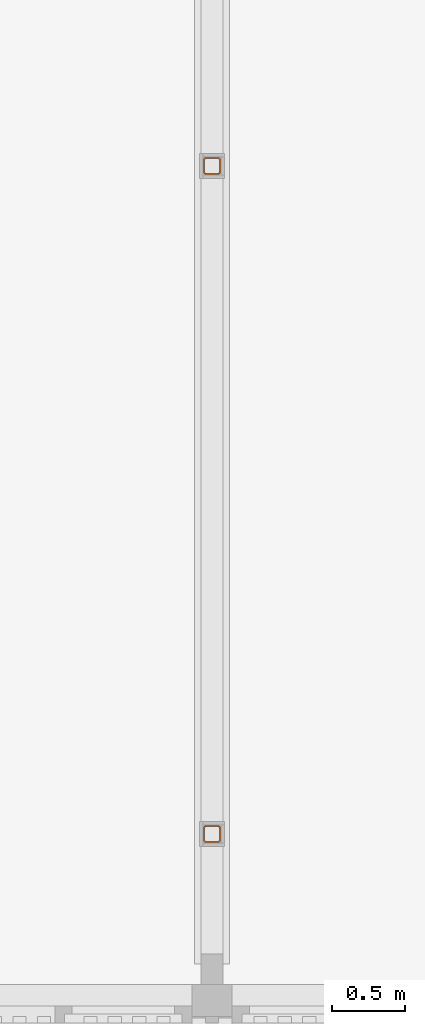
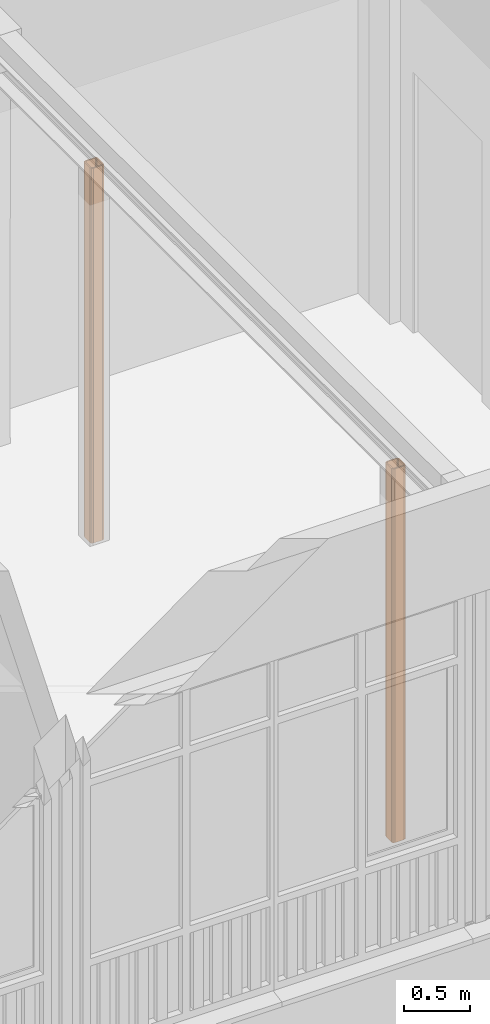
# One storey, part 121 of 135: 2 proxies.
"""IFC2X3 building model written with IfcOpenShell, lengths in millimetres."""

import ifcopenshell
import ifcopenshell.guid

model = None  # the IFC model being written
_history = None  # IfcOwnerHistory: only IFC2X3 demands one
_inside = {}  # id of a spatial element -> (the spatial element, [elements in it])
_under = {}  # id of a project, library or spatial element -> (it, [spatial elements below it])
_declared = {}  # id of a project -> (the project, [libraries it declares])
_typed = {}  # id of a type object -> (the type object, [elements of that type])
_made_of = {}  # id of a material, layer set ... -> (it, [elements and type objects made of it])


def new_model(schema):
    """Start an empty IFC model of exactly this schema.

    Asked for "IFC4X3", IfcOpenShell would pick the latest addendum, in which some entities
    have other attributes; the version numbers below select the first issue.
    IFC2X3 requires an IfcOwnerHistory on every rooted entity: one is made here for all.
    """
    global model, _history
    if schema == "IFC4X3":
        model = ifcopenshell.file(schema_version=(4, 3, 0, 0))
    else:
        model = ifcopenshell.file(schema=schema)
    _inside.clear()
    _under.clear()
    _declared.clear()
    _typed.clear()
    _made_of.clear()
    _history = None
    if model.schema == "IFC2X3":
        org = make("IfcOrganization", Name="unknown")
        user = make(
            "IfcPersonAndOrganization",
            ThePerson=make("IfcPerson", FamilyName="unknown"),
            TheOrganization=org,
        )
        app = make(
            "IfcApplication",
            ApplicationDeveloper=org,
            Version="unknown",
            ApplicationFullName="unknown",
            ApplicationIdentifier="unknown",
        )
        _history = make(
            "IfcOwnerHistory",
            OwningUser=user,
            OwningApplication=app,
            ChangeAction="ADDED",
            CreationDate=0,
        )
    return model


def make(cls, **values):
    """One entity of the class cls with the attributes given. An attribute that is None is left unset."""
    return model.create_entity(
        cls, **{name: value for name, value in values.items() if value is not None}
    )


def entity(cls, *values):
    """Any entity or typed value of the class cls, its attributes in the order of the schema. None: left unset."""
    e = model.create_entity(cls)
    for i, value in enumerate(values):
        if value is not None:
            e[i] = value
    return e


def rooted(cls, **values):
    """An entity with a GlobalId (a new one), such as an element, a storey or a relation."""
    return make(cls, GlobalId=ifcopenshell.guid.new(), OwnerHistory=_history, **values)


def si_unit(unit_type, name, prefix=None):
    """IfcSIUnit, for example si_unit("LENGTHUNIT", "METRE", prefix="MILLI")."""
    return make("IfcSIUnit", UnitType=unit_type, Prefix=prefix, Name=name)


def converted_unit(unit_type, name, factor, base, dimensions=None, offset=None):
    """IfcConversionBasedUnit, such as the inch: factor (a typed value) times the base unit."""
    return make(
        "IfcConversionBasedUnit"
        if offset is None
        else "IfcConversionBasedUnitWithOffset",
        ConversionOffset=offset,
        Dimensions=None
        if dimensions is None
        else entity("IfcDimensionalExponents", *dimensions),
        UnitType=unit_type,
        Name=name,
        ConversionFactor=make(
            "IfcMeasureWithUnit", ValueComponent=factor, UnitComponent=base
        ),
    )


def derived_unit(unit_type, elements):
    """IfcDerivedUnit: a product of units, each with its exponent."""
    return make(
        "IfcDerivedUnit",
        Elements=[
            make("IfcDerivedUnitElement", Unit=unit, Exponent=power)
            for unit, power in elements
        ],
        UnitType=unit_type,
    )


def money_unit(currency):
    """IfcMonetaryUnit."""
    return make("IfcMonetaryUnit", Currency=currency)


def assignment(units):
    """IfcUnitAssignment: the units of a project."""
    return None if units is None else make("IfcUnitAssignment", Units=units)


def point(xyz):
    """IfcCartesianPoint."""
    return None if xyz is None else make("IfcCartesianPoint", Coordinates=xyz)


def direction(xyz):
    """IfcDirection."""
    return None if xyz is None else make("IfcDirection", DirectionRatios=xyz)


def frame(location, z_axis=None, x_axis=None):
    """IfcAxis2Placement3D, a coordinate frame: its origin and axes. An axis left out is left unset."""
    return make(
        "IfcAxis2Placement3D",
        Location=point(location),
        Axis=direction(z_axis),
        RefDirection=direction(x_axis),
    )


def origin_with_axes():
    """The frame at (0, 0, 0) with the z axis (0, 0, 1) and the x axis (1, 0, 0) written out."""
    return frame((0.0, 0.0, 0.0), z_axis=(0.0, 0.0, 1.0), x_axis=(1.0, 0.0, 0.0))


def place(relative_to, where):
    """IfcLocalPlacement: puts the frame where relative to a parent placement (None: the world)."""
    return make(
        "IfcLocalPlacement", PlacementRelTo=relative_to, RelativePlacement=where
    )


def context(
    kind, dimensions, precision=None, world=None, true_north=None, identifier=None
):
    """IfcGeometricRepresentationContext, for example the 3D "Model" context."""
    return make(
        "IfcGeometricRepresentationContext",
        ContextIdentifier=identifier,
        ContextType=kind,
        CoordinateSpaceDimension=dimensions,
        Precision=precision,
        WorldCoordinateSystem=world,
        TrueNorth=true_north,
    )


def subcontext(parent, identifier, kind, view, scale=None):
    """IfcGeometricRepresentationSubContext, for example "Body" below "Model"."""
    return make(
        "IfcGeometricRepresentationSubContext",
        ContextIdentifier=identifier,
        ContextType=kind,
        ParentContext=parent,
        TargetScale=scale,
        TargetView=view,
    )


def project(units=None, contexts=None):
    """IfcProject with its units and contexts."""
    return rooted(
        "IfcProject",
        Name="project",
        RepresentationContexts=contexts,
        UnitsInContext=assignment(units),
    )


def spatial(cls, under=None, at=None, **own):
    """A site, building, storey or space (cls), placed at a placement, below another one or the project."""
    s = rooted(cls, ObjectPlacement=at, **own)
    if under is not None:
        _under.setdefault(under.id(), (under, []))[1].append(s)
    return s


def faces_of(points, faces, orient=None, outer=None):
    """IfcFace entities. A face is a list of loops; a loop is a list of indices into points, from 0.

    orient and outer hold one flag for each loop. By default every Orientation is true, the
    first loop of a face is its IfcFaceOuterBound and the others are IfcFaceBound.
    """
    made = []
    for i, loops in enumerate(faces):
        bounds = []
        for j, loop in enumerate(loops):
            is_outer = j == 0 if outer is None else outer[i][j]
            bounds.append(
                make(
                    "IfcFaceOuterBound" if is_outer else "IfcFaceBound",
                    Bound=make("IfcPolyLoop", Polygon=[points[k] for k in loop]),
                    Orientation=True if orient is None else orient[i][j],
                )
            )
        made.append(make("IfcFace", Bounds=bounds))
    return made


def faceted_brep(points, faces, orient=None, outer=None, voids=None):
    """IfcFacetedBrep: a solid bounded by flat faces; with voids (closed shells), ...WithVoids."""
    shared = [point(p) for p in points]
    hull = make("IfcClosedShell", CfsFaces=faces_of(shared, faces, orient, outer))
    if voids is None:
        return make("IfcFacetedBrep", Outer=hull)
    return make(
        "IfcFacetedBrepWithVoids",
        Outer=hull,
        Voids=[
            make(cls, CfsFaces=faces_of(shared, fs, o, b)) for cls, fs, o, b in voids
        ],
    )


def shape(context_of_items, identifier, shape_type, items):
    """IfcShapeRepresentation: the items that make up one representation, for example the "Body"."""
    return make(
        "IfcShapeRepresentation",
        ContextOfItems=context_of_items,
        RepresentationIdentifier=identifier,
        RepresentationType=shape_type,
        Items=items,
    )


def source(mapping_origin, context_of_items, identifier, shape_type, items):
    """IfcRepresentationMap: a shape defined once, which mapped items show again and again."""
    return make(
        "IfcRepresentationMap",
        MappingOrigin=mapping_origin,
        MappedRepresentation=shape(context_of_items, identifier, shape_type, items),
    )


def transform(
    local_origin,
    x_axis=None,
    y_axis=None,
    z_axis=None,
    scale=None,
    scale2=None,
    scale3=None,
    uniform=True,
):
    """IfcCartesianTransformationOperator3D, or its non-uniform kind. x_axis, y_axis, z_axis: its Axis1, 2, 3."""
    if uniform:
        return make(
            "IfcCartesianTransformationOperator3D",
            Axis1=direction(x_axis),
            Axis2=direction(y_axis),
            LocalOrigin=point(local_origin),
            Scale=scale,
            Axis3=direction(z_axis),
        )
    return make(
        "IfcCartesianTransformationOperator3DnonUniform",
        Axis1=direction(x_axis),
        Axis2=direction(y_axis),
        LocalOrigin=point(local_origin),
        Scale=scale,
        Axis3=direction(z_axis),
        Scale2=scale2,
        Scale3=scale3,
    )


def mapped(mapping_source, mapping_target):
    """IfcMappedItem: shows the shape of a source again, moved by a transform."""
    return make(
        "IfcMappedItem", MappingSource=mapping_source, MappingTarget=mapping_target
    )


def material(Name=None, Category=None):
    """IfcMaterial."""
    return make("IfcMaterial", Name=Name, Category=Category)


def made_of(thing, what):
    """Note that an element or type object is made of a material, layer set ...; save() writes the relation."""
    if what is not None:
        _made_of.setdefault(what.id(), (what, []))[1].append(thing)
    return thing


def type_object(cls, material=None, **own):
    """A type object (cls), such as IfcWallType, which elements share."""
    return made_of(rooted(cls, **own), material)


def type_shapes(of_type, sources):
    """Give a type object the sources (RepresentationMaps) that its elements show as mapped items."""
    of_type.RepresentationMaps = sources


def element(
    cls,
    number,
    at=None,
    inside=None,
    cuts=None,
    type_object=None,
    material=None,
    context=None,
    identifier="Body",
    shape_type=None,
    held_by="IfcProductDefinitionShape",
    body=None,
    shapes=None,
    **own,
):
    """One element of the class cls, such as IfcWall. Its Tag is "e" and its number.

    at: its placement. inside: the storey or other place that contains it. cuts: it is an
    opening in that element (IfcRelVoidsElement). A single representation is given by context,
    identifier, shape_type and body (its items); several are given by shapes. held_by: the class
    of the entity that holds the representations. save() writes the other relations.
    """
    e = rooted(cls, Tag="e%d" % number, ObjectPlacement=at, **own)
    if body is not None:
        shapes = [shape(context, identifier, shape_type, body)]
    if shapes is not None:
        e.Representation = make(held_by, Representations=shapes)
    if inside is not None:
        _inside.setdefault(inside.id(), (inside, []))[1].append(e)
    if cuts is not None:
        rooted(
            "IfcRelVoidsElement", RelatingBuildingElement=cuts, RelatedOpeningElement=e
        )
    if type_object is not None:
        _typed.setdefault(type_object.id(), (type_object, []))[1].append(e)
    return made_of(e, material)


def aggregate(whole, parts):
    """IfcRelAggregates: a whole, such as a stair, and the parts it consists of."""
    return rooted("IfcRelAggregates", RelatingObject=whole, RelatedObjects=parts)


def save(model, path):
    """Write the relations noted so far, then the file.

    IfcRelAggregates (storeys below a building ...), IfcRelContainedInSpatialStructure (elements
    in a storey), IfcRelDefinesByType, IfcRelAssociatesMaterial and IfcRelDeclares: one each for
    every whole, place, type object, material and project.
    """
    for whole, parts in _under.values():
        aggregate(whole, parts)
    for where, things in _inside.values():
        rooted(
            "IfcRelContainedInSpatialStructure",
            RelatedElements=things,
            RelatingStructure=where,
        )
    for kind, things in _typed.values():
        rooted("IfcRelDefinesByType", RelatedObjects=things, RelatingType=kind)
    for what, things in _made_of.values():
        rooted("IfcRelAssociatesMaterial", RelatedObjects=things, RelatingMaterial=what)
    for by, libraries in _declared.values():
        rooted("IfcRelDeclares", RelatingContext=by, RelatedDefinitions=libraries)
    model.write(path)


model = new_model("IFC2X3")

# Units and contexts
model_context = context("Model", 3, precision=0.01, world=origin_with_axes(), true_north=direction((0.0, 1.0)))
body_context = subcontext(model_context, "Body", "Model", "MODEL_VIEW")
ifc_project = project(units=[si_unit("LENGTHUNIT", "METRE", prefix="MILLI"), si_unit("AREAUNIT", "SQUARE_METRE"), si_unit("VOLUMEUNIT", "CUBIC_METRE"), converted_unit("PLANEANGLEUNIT", "DEGREE", entity("IfcPlaneAngleMeasure", 0.0174532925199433), si_unit("PLANEANGLEUNIT", "RADIAN"), dimensions=[0, 0, 0, 0, 0, 0, 0]), money_unit("EUR"), converted_unit("TIMEUNIT", "Year", entity("IfcTimeMeasure", 31557600.0), si_unit("TIMEUNIT", "SECOND"), dimensions=[0, 0, 1, 0, 0, 0, 0]), si_unit("MASSUNIT", "GRAM", prefix="KILO"), si_unit("THERMODYNAMICTEMPERATUREUNIT", "DEGREE_CELSIUS"), si_unit("LUMINOUSINTENSITYUNIT", "LUMEN"), si_unit("ENERGYUNIT", "JOULE", prefix="MEGA"), derived_unit("THERMALCONDUCTANCEUNIT", [(si_unit("POWERUNIT", "WATT"), 1), (si_unit("LENGTHUNIT", "METRE"), -1), (si_unit("THERMODYNAMICTEMPERATUREUNIT", "KELVIN"), -1)]), derived_unit("SPECIFICHEATCAPACITYUNIT", [(si_unit("ENERGYUNIT", "JOULE"), 1), (si_unit("MASSUNIT", "GRAM", prefix="KILO"), -1), (si_unit("THERMODYNAMICTEMPERATUREUNIT", "KELVIN"), -1)]), derived_unit("MASSDENSITYUNIT", [(si_unit("MASSUNIT", "GRAM", prefix="KILO"), 1), (si_unit("VOLUMEUNIT", "CUBIC_METRE"), -1)])], contexts=[model_context])

# Site, building, storey
site_placement = place(None, origin_with_axes())
site = spatial("IfcSite", under=ifc_project, at=site_placement, Name="Site", CompositionType="ELEMENT")
building_placement = place(site_placement, origin_with_axes())
building = spatial("IfcBuilding", under=site, at=building_placement, Name="Naam gebouw", CompositionType="ELEMENT")
storey_placement = place(building_placement, origin_with_axes())
storey = spatial("IfcBuildingStorey", under=building, at=storey_placement, Name="Begane grond N", CompositionType="ELEMENT", Elevation=0.0)

# Proxies
ifc_material = material(Name="Metaal - Staal AFW")
building_element_proxy_type = type_object("IfcBuildingElementProxyType", Name="Buis vk warmgew kolom 27", PredefinedType="NOTDEFINED")
shared_shape_1 = source(origin_with_axes(), body_context, "Body", "Brep", [
    faceted_brep([(39.99999999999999, -60.0, 0.0), (39.99999999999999, -60.0, 3450.000000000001), (-39.99999999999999, -60.0, 3450.000000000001), (-39.99999999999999, -60.0, 0.0), (54.14213562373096, -54.14213562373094, 0.0), (54.14213562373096, -54.14213562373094, 3450.000000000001), (60.0, -39.99999999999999, 3450.000000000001), (60.0, 39.99999999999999, 3450.000000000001), (54.14213562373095, 54.14213562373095, 3450.000000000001), (39.99999999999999, 60.0, 3450.000000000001), (-39.99999999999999, 60.0, 3450.000000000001), (-54.14213562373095, 54.14213562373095, 3450.000000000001), (-60.0, 39.99999999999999, 3450.000000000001), (-60.0, -39.99999999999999, 3450.000000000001), (-54.14213562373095, -54.14213562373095, 3450.000000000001), (40.0, -49.99999999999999, 3450.000000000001), (-39.99999999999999, -49.99999999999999, 3450.000000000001), (-47.07106781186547, -47.07106781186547, 3450.000000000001), (-49.99999999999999, -40.0, 3450.000000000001), (-49.99999999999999, 39.99999999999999, 3450.000000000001), (-47.07106781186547, 47.07106781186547, 3450.000000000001), (-40.0, 49.99999999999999, 3450.000000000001), (39.99999999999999, 49.99999999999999, 3450.000000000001), (47.07106781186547, 47.07106781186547, 3450.000000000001), (49.99999999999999, 40.0, 3450.000000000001), (49.99999999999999, -39.99999999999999, 3450.000000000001), (47.07106781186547, -47.07106781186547, 3450.000000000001), (-54.14213562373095, -54.14213562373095, 0.0), (-60.0, -39.99999999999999, 0.0), (-60.0, 39.99999999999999, 0.0), (-54.14213562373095, 54.14213562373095, 0.0), (-39.99999999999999, 60.0, 0.0), (39.99999999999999, 60.0, 0.0), (54.14213562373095, 54.14213562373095, 0.0), (60.0, 39.99999999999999, 0.0), (60.0, -39.99999999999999, 0.0), (40.0, -49.99999999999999, 0.0), (47.07106781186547, -47.07106781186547, 0.0), (49.99999999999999, -39.99999999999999, 0.0), (49.99999999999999, 40.0, 0.0), (47.07106781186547, 47.07106781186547, 0.0), (39.99999999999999, 49.99999999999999, 0.0), (-40.0, 49.99999999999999, 0.0), (-47.07106781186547, 47.07106781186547, 0.0), (-49.99999999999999, 39.99999999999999, 0.0), (-49.99999999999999, -40.0, 0.0), (-47.07106781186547, -47.07106781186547, 0.0), (-39.99999999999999, -49.99999999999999, 0.0)], [[[0, 1, 2, 3]], [[4, 5, 1, 0]], [[1, 5, 6, 7, 8, 9, 10, 11, 12, 13, 14, 2], [15, 16, 17, 18, 19, 20, 21, 22, 23, 24, 25, 26]], [[3, 2, 14, 27]], [[0, 3, 27, 28, 29, 30, 31, 32, 33, 34, 35, 4], [36, 37, 38, 39, 40, 41, 42, 43, 44, 45, 46, 47]], [[35, 6, 5, 4]], [[34, 7, 6, 35]], [[33, 8, 7, 34]], [[32, 9, 8, 33]], [[31, 10, 9, 32]], [[30, 11, 10, 31]], [[29, 12, 11, 30]], [[28, 13, 12, 29]], [[27, 14, 13, 28]], [[47, 16, 15, 36]], [[46, 17, 16, 47]], [[45, 18, 17, 46]], [[44, 19, 18, 45]], [[43, 20, 19, 44]], [[42, 21, 20, 43]], [[41, 22, 21, 42]], [[40, 23, 22, 41]], [[39, 24, 23, 40]], [[38, 25, 24, 39]], [[37, 26, 25, 38]], [[36, 15, 26, 37]]]),
])
proxy_1_placement = place(storey_placement, frame((39600.00000000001, 16560.91242510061, 0.0), z_axis=(0.0, 0.0, 1.0), x_axis=(0.0, -1.0, 0.0)))
element("IfcBuildingElementProxy", 1, at=proxy_1_placement, inside=storey, type_object=building_element_proxy_type, material=ifc_material, Name="_Boom-x", context=body_context, shape_type="MappedRepresentation", body=[
    mapped(shared_shape_1, transform((0.0, 0.0, 0.0))),
])
shared_shape_2 = source(origin_with_axes(), body_context, "Body", "Brep", [
    faceted_brep([(39.99999999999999, -60.0, 0.0), (39.99999999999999, -60.0, 3439.999999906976), (-39.99999999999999, -60.0, 3439.999999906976), (-39.99999999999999, -60.0, 0.0), (54.14213562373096, -54.14213562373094, 0.0), (54.14213562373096, -54.14213562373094, 3439.999999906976), (60.0, -39.99999999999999, 3439.999999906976), (60.0, 39.99999999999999, 3439.999999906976), (54.14213562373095, 54.14213562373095, 3439.999999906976), (39.99999999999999, 60.0, 3439.999999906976), (-39.99999999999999, 60.0, 3439.999999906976), (-54.14213562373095, 54.14213562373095, 3439.999999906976), (-60.0, 39.99999999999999, 3439.999999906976), (-60.0, -39.99999999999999, 3439.999999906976), (-54.14213562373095, -54.14213562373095, 3439.999999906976), (40.0, -49.99999999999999, 3439.999999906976), (-39.99999999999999, -49.99999999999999, 3439.999999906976), (-47.07106781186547, -47.07106781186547, 3439.999999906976), (-49.99999999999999, -40.0, 3439.999999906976), (-49.99999999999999, 39.99999999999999, 3439.999999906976), (-47.07106781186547, 47.07106781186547, 3439.999999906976), (-40.0, 49.99999999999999, 3439.999999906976), (39.99999999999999, 49.99999999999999, 3439.999999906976), (47.07106781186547, 47.07106781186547, 3439.999999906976), (49.99999999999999, 40.0, 3439.999999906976), (49.99999999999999, -39.99999999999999, 3439.999999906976), (47.07106781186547, -47.07106781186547, 3439.999999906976), (-54.14213562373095, -54.14213562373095, 0.0), (-60.0, -39.99999999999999, 0.0), (-60.0, 39.99999999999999, 0.0), (-54.14213562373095, 54.14213562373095, 0.0), (-39.99999999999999, 60.0, 0.0), (39.99999999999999, 60.0, 0.0), (54.14213562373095, 54.14213562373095, 0.0), (60.0, 39.99999999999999, 0.0), (60.0, -39.99999999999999, 0.0), (40.0, -49.99999999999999, 0.0), (47.07106781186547, -47.07106781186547, 0.0), (49.99999999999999, -39.99999999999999, 0.0), (49.99999999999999, 40.0, 0.0), (47.07106781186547, 47.07106781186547, 0.0), (39.99999999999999, 49.99999999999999, 0.0), (-40.0, 49.99999999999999, 0.0), (-47.07106781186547, 47.07106781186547, 0.0), (-49.99999999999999, 39.99999999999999, 0.0), (-49.99999999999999, -40.0, 0.0), (-47.07106781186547, -47.07106781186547, 0.0), (-39.99999999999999, -49.99999999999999, 0.0)], [[[0, 1, 2, 3]], [[4, 5, 1, 0]], [[1, 5, 6, 7, 8, 9, 10, 11, 12, 13, 14, 2], [15, 16, 17, 18, 19, 20, 21, 22, 23, 24, 25, 26]], [[3, 2, 14, 27]], [[0, 3, 27, 28, 29, 30, 31, 32, 33, 34, 35, 4], [36, 37, 38, 39, 40, 41, 42, 43, 44, 45, 46, 47]], [[35, 6, 5, 4]], [[34, 7, 6, 35]], [[33, 8, 7, 34]], [[32, 9, 8, 33]], [[31, 10, 9, 32]], [[30, 11, 10, 31]], [[29, 12, 11, 30]], [[28, 13, 12, 29]], [[27, 14, 13, 28]], [[47, 16, 15, 36]], [[46, 17, 16, 47]], [[45, 18, 17, 46]], [[44, 19, 18, 45]], [[43, 20, 19, 44]], [[42, 21, 20, 43]], [[41, 22, 21, 42]], [[40, 23, 22, 41]], [[39, 24, 23, 40]], [[38, 25, 24, 39]], [[37, 26, 25, 38]], [[36, 15, 26, 37]]]),
])
type_shapes(building_element_proxy_type, [shared_shape_1, shared_shape_2])
proxy_2_placement = place(storey_placement, frame((39600.00000000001, 12015.91242510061, 0.0), z_axis=(0.0, 0.0, 1.0), x_axis=(0.0, -1.0, 0.0)))
element("IfcBuildingElementProxy", 2, at=proxy_2_placement, inside=storey, type_object=building_element_proxy_type, material=ifc_material, Name="_Boom-x", context=body_context, shape_type="MappedRepresentation", body=[
    mapped(shared_shape_2, transform((0.0, 0.0, 0.0))),
])

save(model, "model.ifc")
